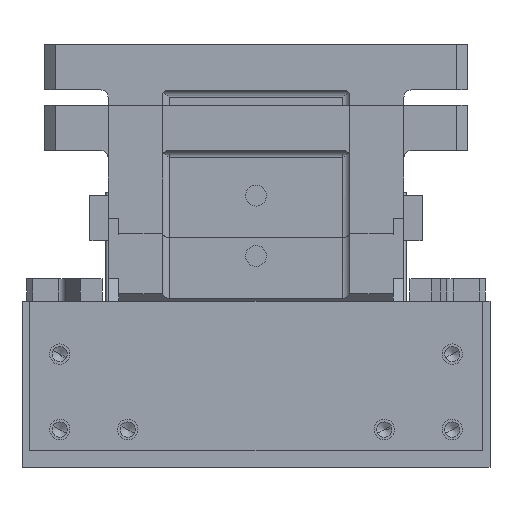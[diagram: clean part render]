
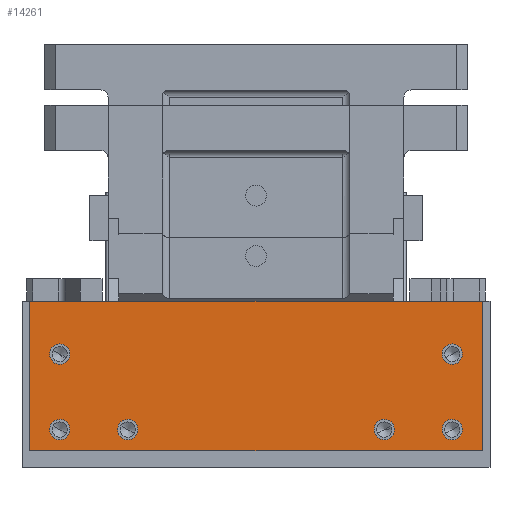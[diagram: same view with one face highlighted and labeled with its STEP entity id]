
A CAD part, left-side view. The second image highlights one B-rep face of the part: STEP entity #14261.
In plain terms, the highlighted planar face has unit normal (-1, 0, 0).
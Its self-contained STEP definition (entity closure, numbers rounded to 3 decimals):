
#12292=CARTESIAN_POINT('Vertex',(-12.,150.,110.)) ;
#12295=CARTESIAN_POINT('Line Origine',(-12.,0.,110.)) ;
#12299=CARTESIAN_POINT('Vertex',(-12.,-150.,110.)) ;
#14110=CARTESIAN_POINT('Vertex',(-12.,90.924,28.236)) ;
#14117=CARTESIAN_POINT('Vertex',(-12.,79.076,21.764)) ;
#14120=CARTESIAN_POINT('Axis2P3D Location',(-12.,85.,25.)) ;
#14132=CARTESIAN_POINT('Axis2P3D Location',(-12.,0.,0.)) ;
#14137=CARTESIAN_POINT('Line Origine',(-12.,150.,60.5)) ;
#14141=CARTESIAN_POINT('Vertex',(-12.,150.,11.)) ;
#14144=CARTESIAN_POINT('Line Origine',(-12.,0.,11.)) ;
#14148=CARTESIAN_POINT('Vertex',(-12.,-150.,11.)) ;
#14151=CARTESIAN_POINT('Line Origine',(-12.,-150.,60.5)) ;
#14162=CARTESIAN_POINT('Axis2P3D Location',(-12.,-130.,25.)) ;
#14166=CARTESIAN_POINT('Vertex',(-12.,-135.924,28.236)) ;
#14168=CARTESIAN_POINT('Vertex',(-12.,-124.076,21.764)) ;
#14171=CARTESIAN_POINT('Axis2P3D Location',(-12.,-130.,25.)) ;
#14180=CARTESIAN_POINT('Axis2P3D Location',(-12.,-130.,75.)) ;
#14184=CARTESIAN_POINT('Vertex',(-12.,-135.924,78.236)) ;
#14186=CARTESIAN_POINT('Vertex',(-12.,-124.076,71.764)) ;
#14189=CARTESIAN_POINT('Axis2P3D Location',(-12.,-130.,75.)) ;
#14198=CARTESIAN_POINT('Axis2P3D Location',(-12.,-85.,25.)) ;
#14202=CARTESIAN_POINT('Vertex',(-12.,-90.924,28.236)) ;
#14204=CARTESIAN_POINT('Vertex',(-12.,-79.076,21.764)) ;
#14207=CARTESIAN_POINT('Axis2P3D Location',(-12.,-85.,25.)) ;
#14216=CARTESIAN_POINT('Axis2P3D Location',(-12.,130.,25.)) ;
#14220=CARTESIAN_POINT('Vertex',(-12.,135.924,28.236)) ;
#14222=CARTESIAN_POINT('Vertex',(-12.,124.076,21.764)) ;
#14225=CARTESIAN_POINT('Axis2P3D Location',(-12.,130.,25.)) ;
#14234=CARTESIAN_POINT('Axis2P3D Location',(-12.,130.,75.)) ;
#14238=CARTESIAN_POINT('Vertex',(-12.,124.076,71.764)) ;
#14240=CARTESIAN_POINT('Vertex',(-12.,135.924,78.236)) ;
#14243=CARTESIAN_POINT('Axis2P3D Location',(-12.,130.,75.)) ;
#14252=CARTESIAN_POINT('Axis2P3D Location',(-12.,85.,25.)) ;
#12297=VECTOR('Line Direction',#12296,1.) ;
#14139=VECTOR('Line Direction',#14138,1.) ;
#14146=VECTOR('Line Direction',#14145,1.) ;
#14153=VECTOR('Line Direction',#14152,1.) ;
#12296=DIRECTION('Vector Direction',(0.,-1.,0.)) ;
#14121=DIRECTION('Axis2P3D Direction',(1.,0.,0.)) ;
#14133=DIRECTION('Axis2P3D Direction',(-1.,-0.,0.)) ;
#14134=DIRECTION('Axis2P3D XDirection',(0.,-1.,0.)) ;
#14138=DIRECTION('Vector Direction',(0.,0.,-1.)) ;
#14145=DIRECTION('Vector Direction',(0.,1.,0.)) ;
#14152=DIRECTION('Vector Direction',(0.,0.,-1.)) ;
#14163=DIRECTION('Axis2P3D Direction',(-1.,-0.,0.)) ;
#14172=DIRECTION('Axis2P3D Direction',(-1.,-0.,0.)) ;
#14181=DIRECTION('Axis2P3D Direction',(-1.,-0.,0.)) ;
#14190=DIRECTION('Axis2P3D Direction',(-1.,-0.,0.)) ;
#14199=DIRECTION('Axis2P3D Direction',(-1.,-0.,0.)) ;
#14208=DIRECTION('Axis2P3D Direction',(-1.,-0.,0.)) ;
#14217=DIRECTION('Axis2P3D Direction',(-1.,-0.,0.)) ;
#14226=DIRECTION('Axis2P3D Direction',(-1.,-0.,0.)) ;
#14235=DIRECTION('Axis2P3D Direction',(-1.,-0.,0.)) ;
#14244=DIRECTION('Axis2P3D Direction',(-1.,-0.,0.)) ;
#14253=DIRECTION('Axis2P3D Direction',(-1.,-0.,0.)) ;
#14122=AXIS2_PLACEMENT_3D('Circle Axis2P3D',#14120,#14121,$) ;
#14135=AXIS2_PLACEMENT_3D('Plane Axis2P3D',#14132,#14133,#14134) ;
#14164=AXIS2_PLACEMENT_3D('Circle Axis2P3D',#14162,#14163,$) ;
#14173=AXIS2_PLACEMENT_3D('Circle Axis2P3D',#14171,#14172,$) ;
#14182=AXIS2_PLACEMENT_3D('Circle Axis2P3D',#14180,#14181,$) ;
#14191=AXIS2_PLACEMENT_3D('Circle Axis2P3D',#14189,#14190,$) ;
#14200=AXIS2_PLACEMENT_3D('Circle Axis2P3D',#14198,#14199,$) ;
#14209=AXIS2_PLACEMENT_3D('Circle Axis2P3D',#14207,#14208,$) ;
#14218=AXIS2_PLACEMENT_3D('Circle Axis2P3D',#14216,#14217,$) ;
#14227=AXIS2_PLACEMENT_3D('Circle Axis2P3D',#14225,#14226,$) ;
#14236=AXIS2_PLACEMENT_3D('Circle Axis2P3D',#14234,#14235,$) ;
#14245=AXIS2_PLACEMENT_3D('Circle Axis2P3D',#14243,#14244,$) ;
#14254=AXIS2_PLACEMENT_3D('Circle Axis2P3D',#14252,#14253,$) ;
#12298=LINE('Line',#12295,#12297) ;
#14140=LINE('Line',#14137,#14139) ;
#14147=LINE('Line',#14144,#14146) ;
#14154=LINE('Line',#14151,#14153) ;
#14123=CIRCLE('generated circle',#14122,6.75) ;
#14165=CIRCLE('generated circle',#14164,6.75) ;
#14174=CIRCLE('generated circle',#14173,6.75) ;
#14183=CIRCLE('generated circle',#14182,6.75) ;
#14192=CIRCLE('generated circle',#14191,6.75) ;
#14201=CIRCLE('generated circle',#14200,6.75) ;
#14210=CIRCLE('generated circle',#14209,6.75) ;
#14219=CIRCLE('generated circle',#14218,6.75) ;
#14228=CIRCLE('generated circle',#14227,6.75) ;
#14237=CIRCLE('generated circle',#14236,6.75) ;
#14246=CIRCLE('generated circle',#14245,6.75) ;
#14255=CIRCLE('generated circle',#14254,6.75) ;
#14136=PLANE('',#14135) ;
#14179=FACE_BOUND('',#14176,.T.) ;
#14197=FACE_BOUND('',#14194,.T.) ;
#14215=FACE_BOUND('',#14212,.T.) ;
#14233=FACE_BOUND('',#14230,.T.) ;
#14251=FACE_BOUND('',#14248,.T.) ;
#14260=FACE_BOUND('',#14257,.T.) ;
#12301=EDGE_CURVE('',#12293,#12300,#12298,.T.) ;
#14124=EDGE_CURVE('',#14118,#14111,#14123,.F.) ;
#14143=EDGE_CURVE('',#12293,#14142,#14140,.T.) ;
#14150=EDGE_CURVE('',#14149,#14142,#14147,.T.) ;
#14155=EDGE_CURVE('',#12300,#14149,#14154,.T.) ;
#14170=EDGE_CURVE('',#14167,#14169,#14165,.F.) ;
#14175=EDGE_CURVE('',#14169,#14167,#14174,.F.) ;
#14188=EDGE_CURVE('',#14185,#14187,#14183,.F.) ;
#14193=EDGE_CURVE('',#14187,#14185,#14192,.F.) ;
#14206=EDGE_CURVE('',#14203,#14205,#14201,.F.) ;
#14211=EDGE_CURVE('',#14205,#14203,#14210,.F.) ;
#14224=EDGE_CURVE('',#14221,#14223,#14219,.T.) ;
#14229=EDGE_CURVE('',#14223,#14221,#14228,.T.) ;
#14242=EDGE_CURVE('',#14239,#14241,#14237,.T.) ;
#14247=EDGE_CURVE('',#14241,#14239,#14246,.T.) ;
#14256=EDGE_CURVE('',#14111,#14118,#14255,.T.) ;
#14156=EDGE_LOOP('',(#14157,#14158,#14159,#14160)) ;
#14176=EDGE_LOOP('',(#14177,#14178)) ;
#14194=EDGE_LOOP('',(#14195,#14196)) ;
#14212=EDGE_LOOP('',(#14213,#14214)) ;
#14230=EDGE_LOOP('',(#14231,#14232)) ;
#14248=EDGE_LOOP('',(#14249,#14250)) ;
#14257=EDGE_LOOP('',(#14258,#14259)) ;
#14157=ORIENTED_EDGE('',*,*,#14143,.T.) ;
#14158=ORIENTED_EDGE('',*,*,#14150,.F.) ;
#14159=ORIENTED_EDGE('',*,*,#14155,.F.) ;
#14160=ORIENTED_EDGE('',*,*,#12301,.F.) ;
#14177=ORIENTED_EDGE('',*,*,#14170,.T.) ;
#14178=ORIENTED_EDGE('',*,*,#14175,.T.) ;
#14195=ORIENTED_EDGE('',*,*,#14188,.T.) ;
#14196=ORIENTED_EDGE('',*,*,#14193,.T.) ;
#14213=ORIENTED_EDGE('',*,*,#14206,.T.) ;
#14214=ORIENTED_EDGE('',*,*,#14211,.T.) ;
#14231=ORIENTED_EDGE('',*,*,#14224,.F.) ;
#14232=ORIENTED_EDGE('',*,*,#14229,.F.) ;
#14249=ORIENTED_EDGE('',*,*,#14242,.F.) ;
#14250=ORIENTED_EDGE('',*,*,#14247,.F.) ;
#14258=ORIENTED_EDGE('',*,*,#14256,.F.) ;
#14259=ORIENTED_EDGE('',*,*,#14124,.F.) ;
#12293=VERTEX_POINT('',#12292) ;
#12300=VERTEX_POINT('',#12299) ;
#14111=VERTEX_POINT('',#14110) ;
#14118=VERTEX_POINT('',#14117) ;
#14142=VERTEX_POINT('',#14141) ;
#14149=VERTEX_POINT('',#14148) ;
#14167=VERTEX_POINT('',#14166) ;
#14169=VERTEX_POINT('',#14168) ;
#14185=VERTEX_POINT('',#14184) ;
#14187=VERTEX_POINT('',#14186) ;
#14203=VERTEX_POINT('',#14202) ;
#14205=VERTEX_POINT('',#14204) ;
#14221=VERTEX_POINT('',#14220) ;
#14223=VERTEX_POINT('',#14222) ;
#14239=VERTEX_POINT('',#14238) ;
#14241=VERTEX_POINT('',#14240) ;
#14261=ADVANCED_FACE('base',(#14161,#14179,#14197,#14215,#14233,#14251,#14260),#14136,.T.) ;
#14161=FACE_OUTER_BOUND('',#14156,.T.) ;
